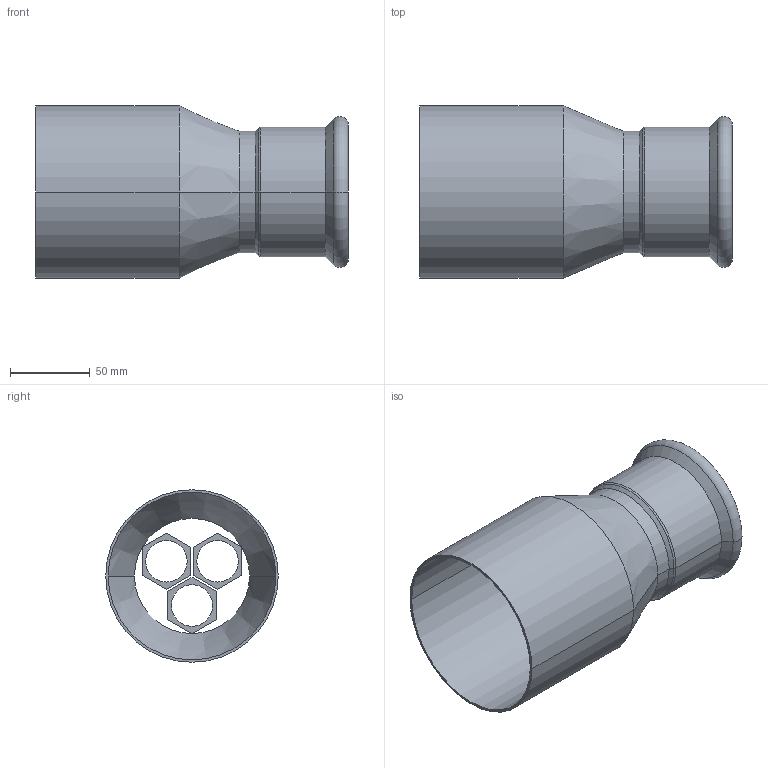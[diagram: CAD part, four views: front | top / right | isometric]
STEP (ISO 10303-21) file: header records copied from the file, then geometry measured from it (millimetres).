
FILE_DESCRIPTION(('OneSpaceDesigner STEP Export'),'2;1');
FILE_NAME('R2707 76x108.stp','2010-06-09T14:22:03',(''),(''),'OneSpace Designer STEP processor for AP214 (Solid Model)','OneSpace Modeling 15.00A 14-Mar-2007 (C) CoCreate Software GmbH','');
FILE_SCHEMA(('AUTOMOTIVE_DESIGN { 1 0 10303 214 1 1 1 1 }'));
Length unit declared in the file: millimetre
Products named in the file (2): R2707_76x108
Assembly tree (1 placements, depth 2):
  R2707_76x108
    R2707_76x108
Bounding box: 196 x 108 x 108 mm (x, y, z)
Volume: 116565.1 mm3; surface area: 125035.9 mm2
Topology: 1 solids, 1 shells, 66 faces, 160 edges, 101 vertices
Faces by surface type: plane 31, cylinder 23, cone 8, torus 4
Entity records: 1707 total; most frequent: ORIENTED_EDGE 320, CARTESIAN_POINT 272, DIRECTION 245, EDGE_CURVE 160, VERTEX_POINT 101, VECTOR 97, LINE 97, EDGE_LOOP 79
